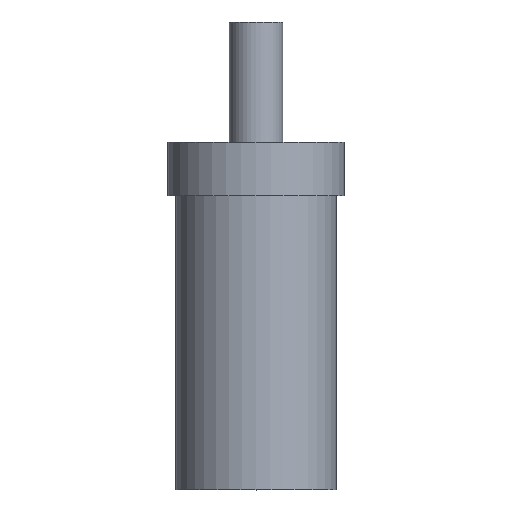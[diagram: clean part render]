
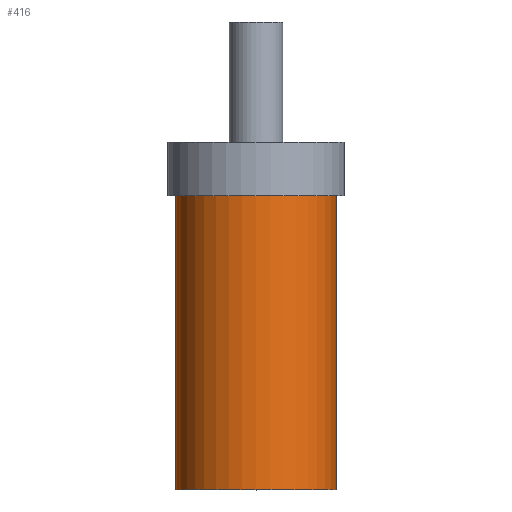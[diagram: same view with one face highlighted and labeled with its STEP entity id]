
A CAD part, top view. The second image highlights one B-rep face of the part: STEP entity #416.
In plain terms, the highlighted cylindrical face has radius 30 mm (diameter 60 mm), a partial arc.
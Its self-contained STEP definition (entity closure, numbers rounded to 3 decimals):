
#5 = VERTEX_POINT ( 'NONE', #301 ) ;
#63 = CARTESIAN_POINT ( 'NONE',  ( 30., 45., 0. ) ) ;
#64 = LINE ( 'NONE', #63, #179 ) ;
#65 = CARTESIAN_POINT ( 'NONE',  ( 0., -130., 0. ) ) ;
#66 = DIRECTION ( 'NONE',  ( 0., 1., 0. ) ) ;
#67 = DIRECTION ( 'NONE',  ( -1., 0., 0. ) ) ;
#68 = LINE ( 'NONE', #69, #176 ) ;
#69 = CARTESIAN_POINT ( 'NONE',  ( -30., 45., 0. ) ) ;
#81 = CARTESIAN_POINT ( 'NONE',  ( 30., -130., 0. ) ) ;
#85 = DIRECTION ( 'NONE',  ( 0., 1., 0. ) ) ;
#88 = FACE_OUTER_BOUND ( 'NONE', #296, .T. ) ;
#89 = CARTESIAN_POINT ( 'NONE',  ( 0., 45., 0. ) ) ;
#90 = CYLINDRICAL_SURFACE ( 'NONE', #209, 30. ) ;
#91 = DIRECTION ( 'NONE',  ( -1., 0., 0. ) ) ;
#134 = DIRECTION ( 'NONE',  ( 0., 1., 0. ) ) ;
#175 = AXIS2_PLACEMENT_3D ( 'NONE', #315, #316, #317 ) ;
#176 = VECTOR ( 'NONE', #318, 1000. ) ;
#177 = CIRCLE ( 'NONE', #175, 30. ) ;
#179 = VECTOR ( 'NONE', #134, 1000. ) ;
#180 = AXIS2_PLACEMENT_3D ( 'NONE', #65, #66, #67 ) ;
#182 = CIRCLE ( 'NONE', #180, 30. ) ;
#209 = AXIS2_PLACEMENT_3D ( 'NONE', #89, #85, #91 ) ;
#267 = ORIENTED_EDGE ( 'NONE', *, *, #446, .F. ) ;
#268 = ORIENTED_EDGE ( 'NONE', *, *, #445, .F. ) ;
#269 = ORIENTED_EDGE ( 'NONE', *, *, #444, .T. ) ;
#270 = ORIENTED_EDGE ( 'NONE', *, *, #442, .T. ) ;
#296 = EDGE_LOOP ( 'NONE', ( #270, #269, #268, #267 ) ) ;
#301 = CARTESIAN_POINT ( 'NONE',  ( -30., -130., 0. ) ) ;
#310 = VERTEX_POINT ( 'NONE', #81 ) ;
#315 = CARTESIAN_POINT ( 'NONE',  ( 0., -20., 0. ) ) ;
#316 = DIRECTION ( 'NONE',  ( 0., 1., 0. ) ) ;
#317 = DIRECTION ( 'NONE',  ( -1., 0., 0. ) ) ;
#318 = DIRECTION ( 'NONE',  ( 0., 1., 0. ) ) ;
#344 = CARTESIAN_POINT ( 'NONE',  ( -30., -20., 0. ) ) ;
#348 = CARTESIAN_POINT ( 'NONE',  ( 30., -20., 0. ) ) ;
#416 = ADVANCED_FACE ( 'NONE', ( #88 ), #90, .T. ) ;
#442 = EDGE_CURVE ( 'NONE', #5, #310, #182, .T. ) ;
#444 = EDGE_CURVE ( 'NONE', #310, #464, #64, .T. ) ;
#445 = EDGE_CURVE ( 'NONE', #459, #464, #177, .T. ) ;
#446 = EDGE_CURVE ( 'NONE', #5, #459, #68, .T. ) ;
#459 = VERTEX_POINT ( 'NONE', #344 ) ;
#464 = VERTEX_POINT ( 'NONE', #348 ) ;
